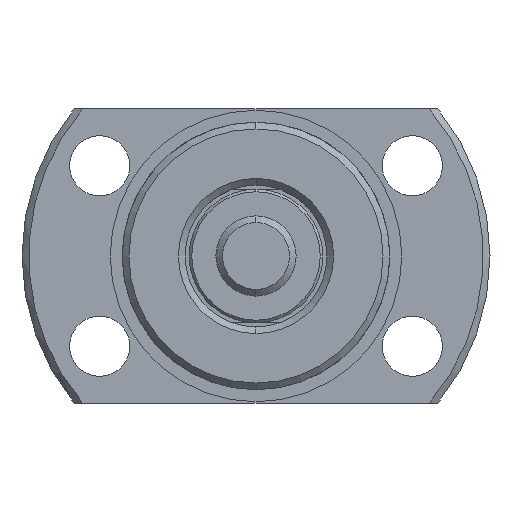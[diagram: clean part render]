
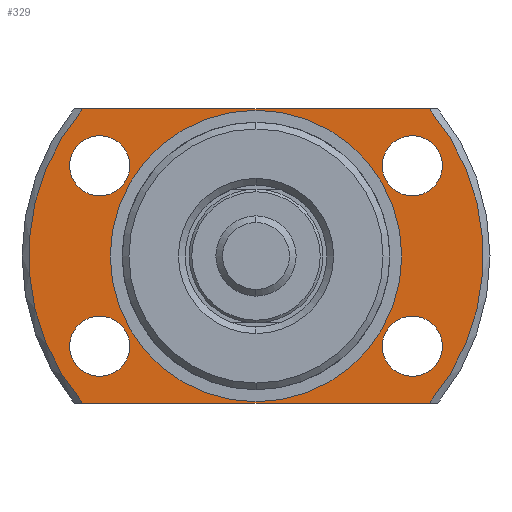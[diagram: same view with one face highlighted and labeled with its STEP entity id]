
A CAD part, left-side view. The second image highlights one B-rep face of the part: STEP entity #329.
In plain terms, the highlighted planar face has unit normal (-1, 0, 0).
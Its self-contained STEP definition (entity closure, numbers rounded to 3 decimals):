
#38 = CARTESIAN_POINT ( 'NONE',  ( -5., -12.961, -11. ) ) ;
#40 = CARTESIAN_POINT ( 'NONE',  ( -5., 12.961, -11. ) ) ;
#47 = CARTESIAN_POINT ( 'NONE',  ( -5., 12.961, 11. ) ) ;
#48 = CARTESIAN_POINT ( 'NONE',  ( -5., -12.961, 11. ) ) ;
#329 = ADVANCED_FACE ( 'NONE', ( #3946, #3947, #3959, #3957, #3944, #3948 ), #3452, .T. ) ;
#455 = AXIS2_PLACEMENT_3D ( 'NONE', #3441, #3459, #3440 ) ;
#601 = AXIS2_PLACEMENT_3D ( 'NONE', #2867, #2866, #2864 ) ;
#602 = AXIS2_PLACEMENT_3D ( 'NONE', #2861, #2860, #2859 ) ;
#603 = AXIS2_PLACEMENT_3D ( 'NONE', #2855, #2854, #2853 ) ;
#604 = AXIS2_PLACEMENT_3D ( 'NONE', #2851, #2850, #2849 ) ;
#605 = AXIS2_PLACEMENT_3D ( 'NONE', #2846, #2845, #2843 ) ;
#606 = AXIS2_PLACEMENT_3D ( 'NONE', #2832, #2830, #2829 ) ;
#607 = AXIS2_PLACEMENT_3D ( 'NONE', #2818, #2817, #2816 ) ;
#811 = EDGE_CURVE ( 'NONE', #4376, #4389, #1419, .T. ) ;
#812 = EDGE_CURVE ( 'NONE', #4400, #4399, #1418, .T. ) ;
#813 = EDGE_CURVE ( 'NONE', #1145, #1147, #1417, .T. ) ;
#814 = EDGE_CURVE ( 'NONE', #1137, #1138, #1593, .T. ) ;
#815 = EDGE_CURVE ( 'NONE', #4396, #4395, #1595, .T. ) ;
#816 = EDGE_CURVE ( 'NONE', #4404, #4403, #1587, .T. ) ;
#817 = EDGE_CURVE ( 'NONE', #4392, #4381, #1591, .T. ) ;
#820 = EDGE_CURVE ( 'NONE', #1145, #1138, #1588, .T. ) ;
#822 = EDGE_CURVE ( 'NONE', #1137, #1147, #1589, .T. ) ;
#900 = AXIS2_PLACEMENT_3D ( 'NONE', #2324, #2325, #2326 ) ;
#902 = AXIS2_PLACEMENT_3D ( 'NONE', #2342, #2343, #2344 ) ;
#904 = AXIS2_PLACEMENT_3D ( 'NONE', #2212, #2217, #2218 ) ;
#906 = AXIS2_PLACEMENT_3D ( 'NONE', #2247, #2252, #2253 ) ;
#908 = AXIS2_PLACEMENT_3D ( 'NONE', #2280, #2275, #2264 ) ;
#1137 = VERTEX_POINT ( 'NONE', #48 ) ;
#1138 = VERTEX_POINT ( 'NONE', #47 ) ;
#1145 = VERTEX_POINT ( 'NONE', #40 ) ;
#1147 = VERTEX_POINT ( 'NONE', #38 ) ;
#1417 = LINE ( 'NONE', #2862, #1594 ) ;
#1418 = CIRCLE ( 'NONE', #602, 2.25 ) ;
#1419 = CIRCLE ( 'NONE', #601, 2.25 ) ;
#1587 = CIRCLE ( 'NONE', #604, 10.9 ) ;
#1588 = CIRCLE ( 'NONE', #606, 17. ) ;
#1589 = CIRCLE ( 'NONE', #607, 17. ) ;
#1590 = VECTOR ( 'NONE', #2857, 1000. ) ;
#1591 = CIRCLE ( 'NONE', #605, 2.25 ) ;
#1593 = LINE ( 'NONE', #2863, #1590 ) ;
#1594 = VECTOR ( 'NONE', #2885, 1000. ) ;
#1595 = CIRCLE ( 'NONE', #603, 2.25 ) ;
#1799 = CARTESIAN_POINT ( 'NONE',  ( -5., -11.691, 9. ) ) ;
#1803 = CARTESIAN_POINT ( 'NONE',  ( -5., -11.691, -9. ) ) ;
#1814 = CARTESIAN_POINT ( 'NONE',  ( -5., -11.691, 4.5 ) ) ;
#1819 = CARTESIAN_POINT ( 'NONE',  ( -5., -11.691, -4.5 ) ) ;
#1883 = CIRCLE ( 'NONE', #908, 10.9 ) ;
#1889 = CIRCLE ( 'NONE', #906, 2.25 ) ;
#1895 = CIRCLE ( 'NONE', #904, 2.25 ) ;
#1901 = CIRCLE ( 'NONE', #902, 2.25 ) ;
#1907 = CIRCLE ( 'NONE', #900, 2.25 ) ;
#2212 = CARTESIAN_POINT ( 'NONE',  ( -5., 11.691, 6.75 ) ) ;
#2217 = DIRECTION ( 'NONE',  ( -1., 0., 0. ) ) ;
#2218 = DIRECTION ( 'NONE',  ( 0., 0., 1. ) ) ;
#2247 = CARTESIAN_POINT ( 'NONE',  ( -5., 11.691, -6.75 ) ) ;
#2252 = DIRECTION ( 'NONE',  ( -1., 0., 0. ) ) ;
#2253 = DIRECTION ( 'NONE',  ( 0., 0., 1. ) ) ;
#2264 = DIRECTION ( 'NONE',  ( 0., 0., -1. ) ) ;
#2275 = DIRECTION ( 'NONE',  ( 1., 0., 0. ) ) ;
#2280 = CARTESIAN_POINT ( 'NONE',  ( -5., 0., 0. ) ) ;
#2324 = CARTESIAN_POINT ( 'NONE',  ( -5., -11.691, -6.75 ) ) ;
#2325 = DIRECTION ( 'NONE',  ( -1., 0., 0. ) ) ;
#2326 = DIRECTION ( 'NONE',  ( 0., 0., 1. ) ) ;
#2342 = CARTESIAN_POINT ( 'NONE',  ( -5., -11.691, 6.75 ) ) ;
#2343 = DIRECTION ( 'NONE',  ( -1., 0., 0. ) ) ;
#2344 = DIRECTION ( 'NONE',  ( 0., 0., 1. ) ) ;
#2506 = ORIENTED_EDGE ( 'NONE', *, *, #811, .F. ) ;
#2507 = ORIENTED_EDGE ( 'NONE', *, *, #3784, .F. ) ;
#2508 = ORIENTED_EDGE ( 'NONE', *, *, #812, .F. ) ;
#2509 = ORIENTED_EDGE ( 'NONE', *, *, #3796, .F. ) ;
#2510 = ORIENTED_EDGE ( 'NONE', *, *, #822, .F. ) ;
#2511 = ORIENTED_EDGE ( 'NONE', *, *, #813, .T. ) ;
#2512 = ORIENTED_EDGE ( 'NONE', *, *, #820, .F. ) ;
#2513 = ORIENTED_EDGE ( 'NONE', *, *, #814, .T. ) ;
#2514 = ORIENTED_EDGE ( 'NONE', *, *, #815, .F. ) ;
#2515 = ORIENTED_EDGE ( 'NONE', *, *, #3792, .F. ) ;
#2516 = ORIENTED_EDGE ( 'NONE', *, *, #3800, .T. ) ;
#2517 = ORIENTED_EDGE ( 'NONE', *, *, #816, .T. ) ;
#2518 = ORIENTED_EDGE ( 'NONE', *, *, #817, .F. ) ;
#2519 = ORIENTED_EDGE ( 'NONE', *, *, #3788, .F. ) ;
#2816 = DIRECTION ( 'NONE',  ( 0., 0., -1. ) ) ;
#2817 = DIRECTION ( 'NONE',  ( 1., 0., 0. ) ) ;
#2818 = CARTESIAN_POINT ( 'NONE',  ( -5., 0., 0. ) ) ;
#2829 = DIRECTION ( 'NONE',  ( 0., 0., -1. ) ) ;
#2830 = DIRECTION ( 'NONE',  ( 1., 0., 0. ) ) ;
#2832 = CARTESIAN_POINT ( 'NONE',  ( -5., 0., 0. ) ) ;
#2843 = DIRECTION ( 'NONE',  ( 0., 0., 1. ) ) ;
#2845 = DIRECTION ( 'NONE',  ( -1., 0., 0. ) ) ;
#2846 = CARTESIAN_POINT ( 'NONE',  ( -5., -11.691, 6.75 ) ) ;
#2849 = DIRECTION ( 'NONE',  ( 0., 0., -1. ) ) ;
#2850 = DIRECTION ( 'NONE',  ( 1., 0., 0. ) ) ;
#2851 = CARTESIAN_POINT ( 'NONE',  ( -5., 0., 0. ) ) ;
#2853 = DIRECTION ( 'NONE',  ( 0., 0., 1. ) ) ;
#2854 = DIRECTION ( 'NONE',  ( -1., 0., 0. ) ) ;
#2855 = CARTESIAN_POINT ( 'NONE',  ( -5., 11.691, 6.75 ) ) ;
#2857 = DIRECTION ( 'NONE',  ( 0., 1., 0. ) ) ;
#2859 = DIRECTION ( 'NONE',  ( 0., 0., 1. ) ) ;
#2860 = DIRECTION ( 'NONE',  ( -1., 0., 0. ) ) ;
#2861 = CARTESIAN_POINT ( 'NONE',  ( -5., 11.691, -6.75 ) ) ;
#2862 = CARTESIAN_POINT ( 'NONE',  ( -5., 17., -11. ) ) ;
#2863 = CARTESIAN_POINT ( 'NONE',  ( -5., 17., 11. ) ) ;
#2864 = DIRECTION ( 'NONE',  ( 0., 0., 1. ) ) ;
#2866 = DIRECTION ( 'NONE',  ( -1., 0., 0. ) ) ;
#2867 = CARTESIAN_POINT ( 'NONE',  ( -5., -11.691, -6.75 ) ) ;
#2885 = DIRECTION ( 'NONE',  ( 0., -1., 0. ) ) ;
#3440 = DIRECTION ( 'NONE',  ( 0., 0., 1. ) ) ;
#3441 = CARTESIAN_POINT ( 'NONE',  ( -5., 17., 0. ) ) ;
#3452 = PLANE ( 'NONE',  #455 ) ;
#3459 = DIRECTION ( 'NONE',  ( -1., 0., 0. ) ) ;
#3701 = CARTESIAN_POINT ( 'NONE',  ( -5., 0., -10.9 ) ) ;
#3706 = CARTESIAN_POINT ( 'NONE',  ( -5., 11.691, -4.5 ) ) ;
#3708 = CARTESIAN_POINT ( 'NONE',  ( -5., 11.691, -9. ) ) ;
#3716 = CARTESIAN_POINT ( 'NONE',  ( -5., 0., 10.9 ) ) ;
#3717 = CARTESIAN_POINT ( 'NONE',  ( -5., 11.691, 9. ) ) ;
#3722 = CARTESIAN_POINT ( 'NONE',  ( -5., 11.691, 4.5 ) ) ;
#3784 = EDGE_CURVE ( 'NONE', #4389, #4376, #1907, .T. ) ;
#3788 = EDGE_CURVE ( 'NONE', #4381, #4392, #1901, .T. ) ;
#3792 = EDGE_CURVE ( 'NONE', #4395, #4396, #1895, .T. ) ;
#3796 = EDGE_CURVE ( 'NONE', #4399, #4400, #1889, .T. ) ;
#3800 = EDGE_CURVE ( 'NONE', #4403, #4404, #1883, .T. ) ;
#3944 = FACE_BOUND ( 'NONE', #4163, .T. ) ;
#3946 = FACE_BOUND ( 'NONE', #4161, .T. ) ;
#3947 = FACE_BOUND ( 'NONE', #4156, .T. ) ;
#3948 = FACE_BOUND ( 'NONE', #4166, .T. ) ;
#3957 = FACE_OUTER_BOUND ( 'NONE', #4165, .T. ) ;
#3959 = FACE_BOUND ( 'NONE', #4164, .T. ) ;
#4156 = EDGE_LOOP ( 'NONE', ( #2517, #2516 ) ) ;
#4161 = EDGE_LOOP ( 'NONE', ( #2519, #2518 ) ) ;
#4163 = EDGE_LOOP ( 'NONE', ( #2509, #2508 ) ) ;
#4164 = EDGE_LOOP ( 'NONE', ( #2515, #2514 ) ) ;
#4165 = EDGE_LOOP ( 'NONE', ( #2513, #2512, #2511, #2510 ) ) ;
#4166 = EDGE_LOOP ( 'NONE', ( #2507, #2506 ) ) ;
#4376 = VERTEX_POINT ( 'NONE', #1819 ) ;
#4381 = VERTEX_POINT ( 'NONE', #1814 ) ;
#4389 = VERTEX_POINT ( 'NONE', #1803 ) ;
#4392 = VERTEX_POINT ( 'NONE', #1799 ) ;
#4395 = VERTEX_POINT ( 'NONE', #3722 ) ;
#4396 = VERTEX_POINT ( 'NONE', #3717 ) ;
#4399 = VERTEX_POINT ( 'NONE', #3708 ) ;
#4400 = VERTEX_POINT ( 'NONE', #3706 ) ;
#4403 = VERTEX_POINT ( 'NONE', #3716 ) ;
#4404 = VERTEX_POINT ( 'NONE', #3701 ) ;
